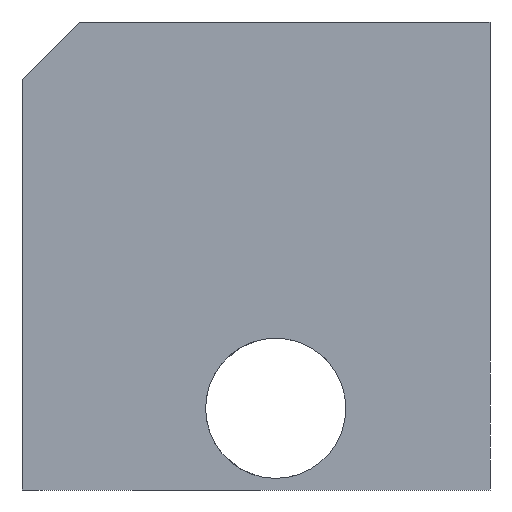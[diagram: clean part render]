
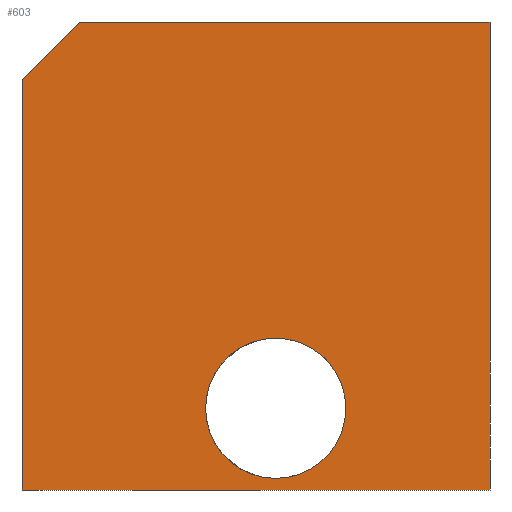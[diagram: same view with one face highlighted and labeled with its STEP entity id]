
A CAD part, front view. The second image highlights one B-rep face of the part: STEP entity #603.
In plain terms, the highlighted planar face has unit normal (0, -1, 0).
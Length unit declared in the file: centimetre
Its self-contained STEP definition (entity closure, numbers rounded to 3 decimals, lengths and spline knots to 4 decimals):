
#4 = DIRECTION ( 'NONE',  ( 0., 1., 0. ) ) ;
#22 = ORIENTED_EDGE ( 'NONE', *, *, #485, .T. ) ;
#67 = ORIENTED_EDGE ( 'NONE', *, *, #207, .T. ) ;
#70 = EDGE_CURVE ( 'NONE', #253, #322, #580, .T. ) ;
#74 = AXIS2_PLACEMENT_3D ( 'NONE', #651, #946, #216 ) ;
#80 = VERTEX_POINT ( 'NONE', #412 ) ;
#147 = DIRECTION ( 'NONE',  ( 1., 0., 0. ) ) ;
#159 = AXIS2_PLACEMENT_3D ( 'NONE', #916, #610, #309 ) ;
#202 = ORIENTED_EDGE ( 'NONE', *, *, #267, .T. ) ;
#207 = EDGE_CURVE ( 'NONE', #914, #891, #597, .T. ) ;
#216 = DIRECTION ( 'NONE',  ( 0., 0., 1. ) ) ;
#220 = VECTOR ( 'NONE', #683, 100. ) ;
#223 = CARTESIAN_POINT ( 'NONE',  ( 1000., 0., 0. ) ) ;
#253 = VERTEX_POINT ( 'NONE', #810 ) ;
#267 = EDGE_CURVE ( 'NONE', #629, #80, #755, .T. ) ;
#280 = CARTESIAN_POINT ( 'NONE',  ( 0., 0., 0. ) ) ;
#287 = CARTESIAN_POINT ( 'NONE',  ( 0., 0., 1000. ) ) ;
#297 = VECTOR ( 'NONE', #848, 100. ) ;
#301 = CARTESIAN_POINT ( 'NONE',  ( 0., 0., 876.8446 ) ) ;
#309 = DIRECTION ( 'NONE',  ( 0., 0., 1. ) ) ;
#310 = CARTESIAN_POINT ( 'NONE',  ( 0., 0., 0. ) ) ;
#322 = VERTEX_POINT ( 'NONE', #223 ) ;
#342 = EDGE_LOOP ( 'NONE', ( #202, #22 ) ) ;
#370 = DIRECTION ( 'NONE',  ( 0., 0., 1. ) ) ;
#396 = CARTESIAN_POINT ( 'NONE',  ( 123.1554, 0., 1000. ) ) ;
#412 = CARTESIAN_POINT ( 'NONE',  ( 542.0977, 0., 24.7767 ) ) ;
#418 = CARTESIAN_POINT ( 'NONE',  ( 542.0977, 0., 324.4944 ) ) ;
#424 = FACE_BOUND ( 'NONE', #342, .T. ) ;
#433 = ORIENTED_EDGE ( 'NONE', *, *, #70, .F. ) ;
#444 = CARTESIAN_POINT ( 'NONE',  ( 542.0977, 0., 174.6355 ) ) ;
#458 = VECTOR ( 'NONE', #575, 100. ) ;
#485 = EDGE_CURVE ( 'NONE', #80, #629, #595, .T. ) ;
#493 = ORIENTED_EDGE ( 'NONE', *, *, #600, .T. ) ;
#554 = CARTESIAN_POINT ( 'NONE',  ( 0., 0., 1000. ) ) ;
#570 = PLANE ( 'NONE',  #74 ) ;
#575 = DIRECTION ( 'NONE',  ( 0., 0., -1. ) ) ;
#580 = LINE ( 'NONE', #732, #458 ) ;
#590 = AXIS2_PLACEMENT_3D ( 'NONE', #444, #4, #370 ) ;
#595 = CIRCLE ( 'NONE', #159, 149.8589 ) ;
#597 = LINE ( 'NONE', #287, #680 ) ;
#600 = EDGE_CURVE ( 'NONE', #891, #322, #871, .T. ) ;
#603 = ADVANCED_FACE ( 'NONE', ( #424, #784 ), #570, .F. ) ;
#610 = DIRECTION ( 'NONE',  ( 0., 1., 0. ) ) ;
#629 = VERTEX_POINT ( 'NONE', #418 ) ;
#651 = CARTESIAN_POINT ( 'NONE',  ( 0., 0., 1000. ) ) ;
#672 = DIRECTION ( 'NONE',  ( 0., 0., -1. ) ) ;
#673 = EDGE_CURVE ( 'NONE', #709, #253, #912, .T. ) ;
#680 = VECTOR ( 'NONE', #672, 100. ) ;
#683 = DIRECTION ( 'NONE',  ( -0.707, 0., -0.707 ) ) ;
#692 = LINE ( 'NONE', #768, #220 ) ;
#709 = VERTEX_POINT ( 'NONE', #396 ) ;
#732 = CARTESIAN_POINT ( 'NONE',  ( 1000., 0., 1000. ) ) ;
#755 = CIRCLE ( 'NONE', #590, 149.8589 ) ;
#768 = CARTESIAN_POINT ( 'NONE',  ( 123.1554, 0., 1000. ) ) ;
#777 = ORIENTED_EDGE ( 'NONE', *, *, #890, .T. ) ;
#784 = FACE_OUTER_BOUND ( 'NONE', #856, .T. ) ;
#810 = CARTESIAN_POINT ( 'NONE',  ( 1000., 0., 1000. ) ) ;
#848 = DIRECTION ( 'NONE',  ( 1., 0., 0. ) ) ;
#850 = ORIENTED_EDGE ( 'NONE', *, *, #673, .F. ) ;
#856 = EDGE_LOOP ( 'NONE', ( #850, #777, #67, #493, #433 ) ) ;
#871 = LINE ( 'NONE', #280, #918 ) ;
#890 = EDGE_CURVE ( 'NONE', #709, #914, #692, .T. ) ;
#891 = VERTEX_POINT ( 'NONE', #310 ) ;
#912 = LINE ( 'NONE', #554, #297 ) ;
#914 = VERTEX_POINT ( 'NONE', #301 ) ;
#916 = CARTESIAN_POINT ( 'NONE',  ( 542.0977, 0., 174.6355 ) ) ;
#918 = VECTOR ( 'NONE', #147, 100. ) ;
#946 = DIRECTION ( 'NONE',  ( 0., 1., 0. ) ) ;
